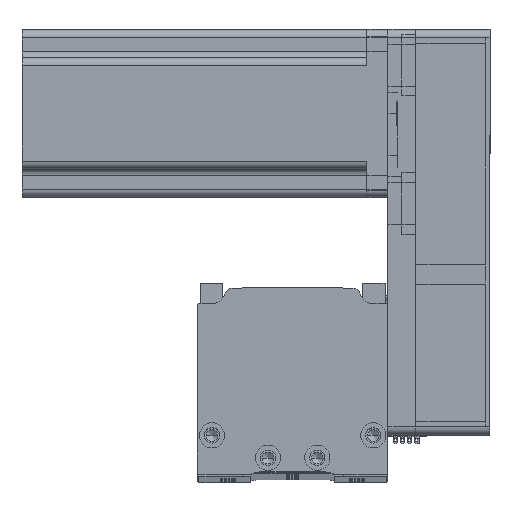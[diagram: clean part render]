
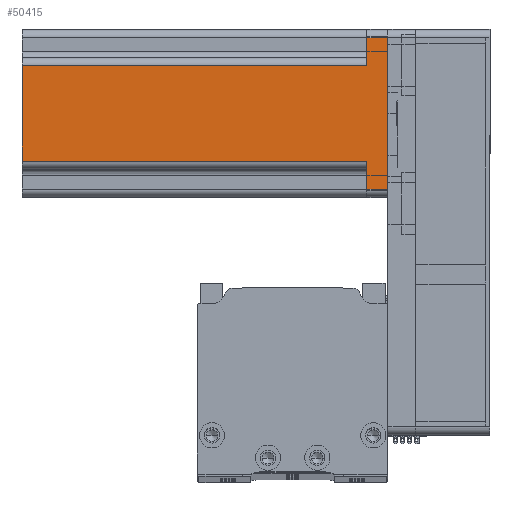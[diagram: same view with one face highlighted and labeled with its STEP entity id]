
A CAD part, top view. The second image highlights one B-rep face of the part: STEP entity #50415.
In plain terms, the highlighted planar face has unit normal (0, 0, 1) as drawn and (0, -1, 0) by its records, which use the part's own axes.
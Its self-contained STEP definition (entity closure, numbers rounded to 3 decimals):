
#1606 = CARTESIAN_POINT ( 'NONE',  ( 27., -30., 7.5 ) ) ;
#1822 = EDGE_CURVE ( 'NONE', #31653, #48145, #4966, .T. ) ;
#2576 = ORIENTED_EDGE ( 'NONE', *, *, #19601, .T. ) ;
#2821 = CARTESIAN_POINT ( 'NONE',  ( 17., -30., 7.5 ) ) ;
#2939 = CARTESIAN_POINT ( 'NONE',  ( -27., -30., 7.5 ) ) ;
#4248 = AXIS2_PLACEMENT_3D ( 'NONE', #39202, #12642, #43671 ) ;
#4273 = CARTESIAN_POINT ( 'NONE',  ( 30., -30., 0. ) ) ;
#4843 = FACE_OUTER_BOUND ( 'NONE', #18556, .T. ) ;
#4966 = LINE ( 'NONE', #44705, #27235 ) ;
#5886 = DIRECTION ( 'NONE',  ( 0., 0., 1. ) ) ;
#5989 = VECTOR ( 'NONE', #5886, 1000. ) ;
#5996 = VECTOR ( 'NONE', #21179, 1000. ) ;
#8312 = VECTOR ( 'NONE', #9549, 1000. ) ;
#9501 = ORIENTED_EDGE ( 'NONE', *, *, #48472, .T. ) ;
#9549 = DIRECTION ( 'NONE',  ( 0., 0., -1. ) ) ;
#10463 = CARTESIAN_POINT ( 'NONE',  ( -17., -30., 130.7 ) ) ;
#10724 = VECTOR ( 'NONE', #18120, 1000. ) ;
#10851 = CARTESIAN_POINT ( 'NONE',  ( -17., -30., 130.7 ) ) ;
#12642 = DIRECTION ( 'NONE',  ( 0., 1., 0. ) ) ;
#13134 = VERTEX_POINT ( 'NONE', #2821 ) ;
#16714 = CARTESIAN_POINT ( 'NONE',  ( 20., -30., 7.5 ) ) ;
#16801 = EDGE_CURVE ( 'NONE', #38501, #27100, #40040, .T. ) ;
#17242 = LINE ( 'NONE', #4273, #51197 ) ;
#18120 = DIRECTION ( 'NONE',  ( 0., 0., 1. ) ) ;
#18556 = EDGE_LOOP ( 'NONE', ( #52307, #45649, #46535, #42438, #43504, #27541, #9501, #2576 ) ) ;
#19601 = EDGE_CURVE ( 'NONE', #13134, #33951, #44751, .T. ) ;
#21179 = DIRECTION ( 'NONE',  ( -1., 0., 0. ) ) ;
#22992 = CARTESIAN_POINT ( 'NONE',  ( -27., -30., 130.7 ) ) ;
#23425 = EDGE_CURVE ( 'NONE', #49889, #33951, #48906, .T. ) ;
#25384 = VECTOR ( 'NONE', #49842, 1000. ) ;
#27100 = VERTEX_POINT ( 'NONE', #1606 ) ;
#27235 = VECTOR ( 'NONE', #49195, 1000. ) ;
#27541 = ORIENTED_EDGE ( 'NONE', *, *, #16801, .T. ) ;
#30555 = LINE ( 'NONE', #10463, #40932 ) ;
#31653 = VERTEX_POINT ( 'NONE', #2939 ) ;
#31850 = CARTESIAN_POINT ( 'NONE',  ( -17., -30., 7.5 ) ) ;
#32510 = CARTESIAN_POINT ( 'NONE',  ( 27., -30., 130.7 ) ) ;
#33951 = VERTEX_POINT ( 'NONE', #34658 ) ;
#34574 = PLANE ( 'NONE',  #4248 ) ;
#34658 = CARTESIAN_POINT ( 'NONE',  ( 17., -30., 130.7 ) ) ;
#35396 = DIRECTION ( 'NONE',  ( 1., 0., 0. ) ) ;
#36672 = CARTESIAN_POINT ( 'NONE',  ( 30., -30., 130.7 ) ) ;
#36717 = EDGE_CURVE ( 'NONE', #49889, #48145, #30555, .T. ) ;
#37142 = VERTEX_POINT ( 'NONE', #40928 ) ;
#38501 = VERTEX_POINT ( 'NONE', #50541 ) ;
#39202 = CARTESIAN_POINT ( 'NONE',  ( 30., -30., 130.7 ) ) ;
#40040 = LINE ( 'NONE', #32510, #5989 ) ;
#40928 = CARTESIAN_POINT ( 'NONE',  ( -27., -30., 0. ) ) ;
#40932 = VECTOR ( 'NONE', #50244, 1000. ) ;
#41447 = LINE ( 'NONE', #16714, #5996 ) ;
#42438 = ORIENTED_EDGE ( 'NONE', *, *, #51577, .T. ) ;
#43504 = ORIENTED_EDGE ( 'NONE', *, *, #47979, .T. ) ;
#43671 = DIRECTION ( 'NONE',  ( -1., 0., 0. ) ) ;
#44625 = CARTESIAN_POINT ( 'NONE',  ( 17., -30., 130.7 ) ) ;
#44705 = CARTESIAN_POINT ( 'NONE',  ( -20., -30., 7.5 ) ) ;
#44751 = LINE ( 'NONE', #44625, #10724 ) ;
#45649 = ORIENTED_EDGE ( 'NONE', *, *, #36717, .T. ) ;
#46535 = ORIENTED_EDGE ( 'NONE', *, *, #1822, .F. ) ;
#47979 = EDGE_CURVE ( 'NONE', #37142, #38501, #17242, .T. ) ;
#48145 = VERTEX_POINT ( 'NONE', #31850 ) ;
#48472 = EDGE_CURVE ( 'NONE', #27100, #13134, #41447, .T. ) ;
#48906 = LINE ( 'NONE', #36672, #25384 ) ;
#49195 = DIRECTION ( 'NONE',  ( 1., 0., 0. ) ) ;
#49842 = DIRECTION ( 'NONE',  ( 1., 0., 0. ) ) ;
#49889 = VERTEX_POINT ( 'NONE', #10851 ) ;
#50244 = DIRECTION ( 'NONE',  ( 0., 0., -1. ) ) ;
#50415 = ADVANCED_FACE ( 'NONE', ( #4843 ), #34574, .F. ) ;
#50541 = CARTESIAN_POINT ( 'NONE',  ( 27., -30., 0. ) ) ;
#51197 = VECTOR ( 'NONE', #35396, 1000. ) ;
#51577 = EDGE_CURVE ( 'NONE', #31653, #37142, #55493, .T. ) ;
#52307 = ORIENTED_EDGE ( 'NONE', *, *, #23425, .F. ) ;
#55493 = LINE ( 'NONE', #22992, #8312 ) ;
